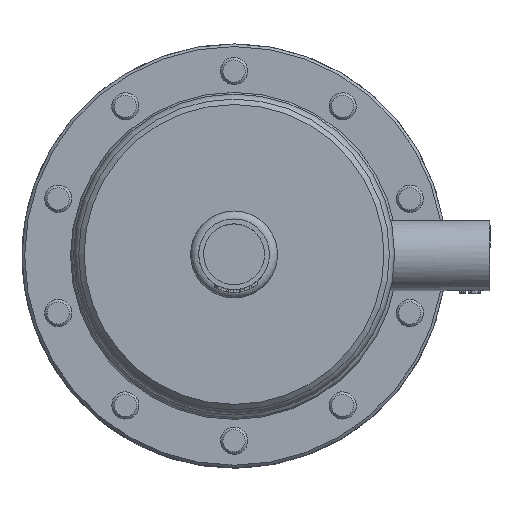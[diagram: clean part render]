
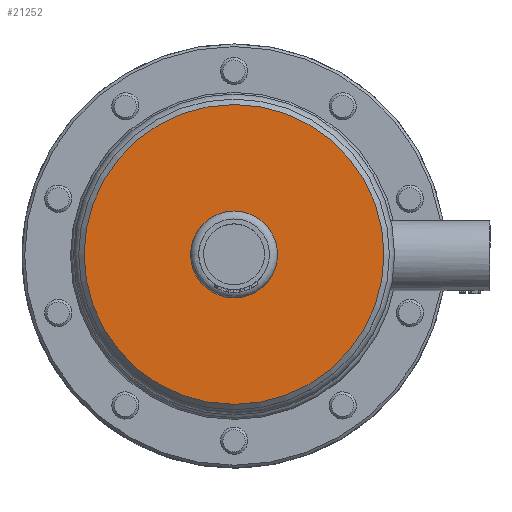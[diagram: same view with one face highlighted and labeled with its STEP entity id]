
A CAD part, top view. The second image highlights one B-rep face of the part: STEP entity #21252.
In plain terms, the highlighted planar face has unit normal (0, 0, 1).
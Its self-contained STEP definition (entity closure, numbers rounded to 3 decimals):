
#993=FACE_BOUND('',#4227,.T.);
#2853=FACE_OUTER_BOUND('',#4226,.T.);
#4226=EDGE_LOOP('',(#18611));
#4227=EDGE_LOOP('',(#18612));
#5037=CIRCLE('',#22941,16.);
#5079=CIRCLE('',#23012,55.15);
#9862=VERTEX_POINT('',#41999);
#9916=VERTEX_POINT('',#42172);
#12829=EDGE_CURVE('',#9862,#9862,#5037,.T.);
#12895=EDGE_CURVE('',#9916,#9916,#5079,.T.);
#18611=ORIENTED_EDGE('',*,*,#12895,.T.);
#18612=ORIENTED_EDGE('',*,*,#12829,.T.);
#20147=PLANE('',#23011);
#21252=ADVANCED_FACE('',(#2853,#993),#20147,.T.);
#22941=AXIS2_PLACEMENT_3D('',#42000,#27621,#27622);
#23011=AXIS2_PLACEMENT_3D('',#42171,#27773,#27774);
#23012=AXIS2_PLACEMENT_3D('',#42173,#27775,#27776);
#27621=DIRECTION('center_axis',(0.,0.,
-1.));
#27622=DIRECTION('ref_axis',(1.,0.,0.));
#27773=DIRECTION('center_axis',(0.,0.,
1.));
#27774=DIRECTION('ref_axis',(0.,1.,0.));
#27775=DIRECTION('center_axis',(0.,0.,
1.));
#27776=DIRECTION('ref_axis',(1.,0.,0.));
#41999=CARTESIAN_POINT('',(16.,0.,333.5));
#42000=CARTESIAN_POINT('Origin',(0.,0.,
333.5));
#42171=CARTESIAN_POINT('Origin',(27.575,0.,333.5));
#42172=CARTESIAN_POINT('',(55.15,0.,333.5));
#42173=CARTESIAN_POINT('Origin',(0.,0.,
333.5));
